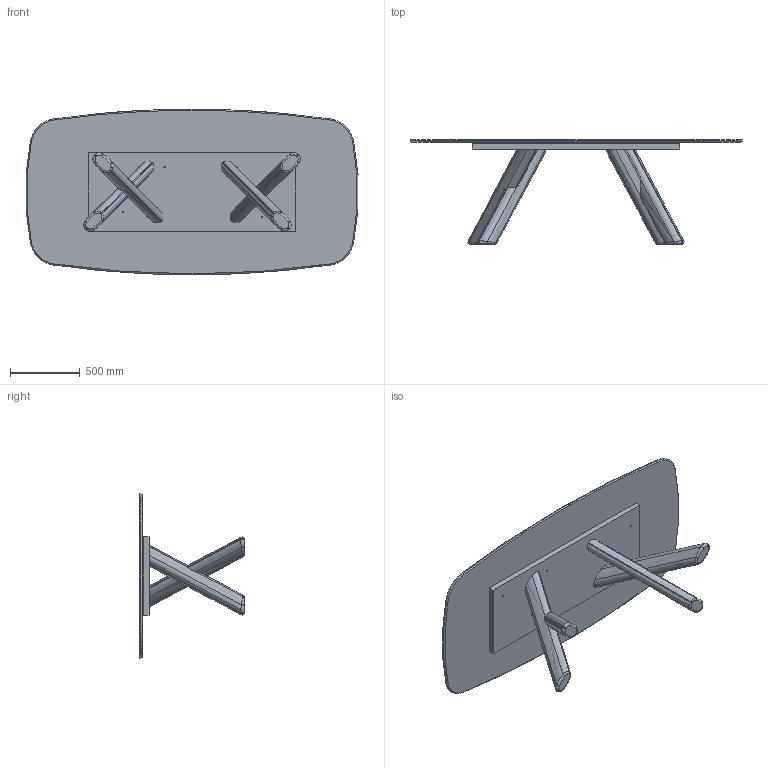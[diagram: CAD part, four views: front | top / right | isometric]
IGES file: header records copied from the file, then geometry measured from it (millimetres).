
Start section: SolidWorks IGES file using analytic representation for surfaces
Global section: file name: Y:\eforma\TECNICO\SOLIDWORKS\E-FORMA\1-TAVOLI\CANOVA\08 modelli 3D web\CN42C_CANOVA_top ceramica 239x119x75h sag.IGS; native system: SolidWorks 2022; preprocessor: SolidWorks 2022; author: eforma.tech; date: 250415.090537; units: millimetre
Bounding box: 2382.15 x 748 x 1190 mm (x, y, z)
Volume: 113234333.8 mm3; surface area: 8611049.5 mm2
Topology: 6 solids, 6 shells, 174 faces, 420 edges, 264 vertices
Faces by surface type: revolution 116, bspline 36, plane 22
